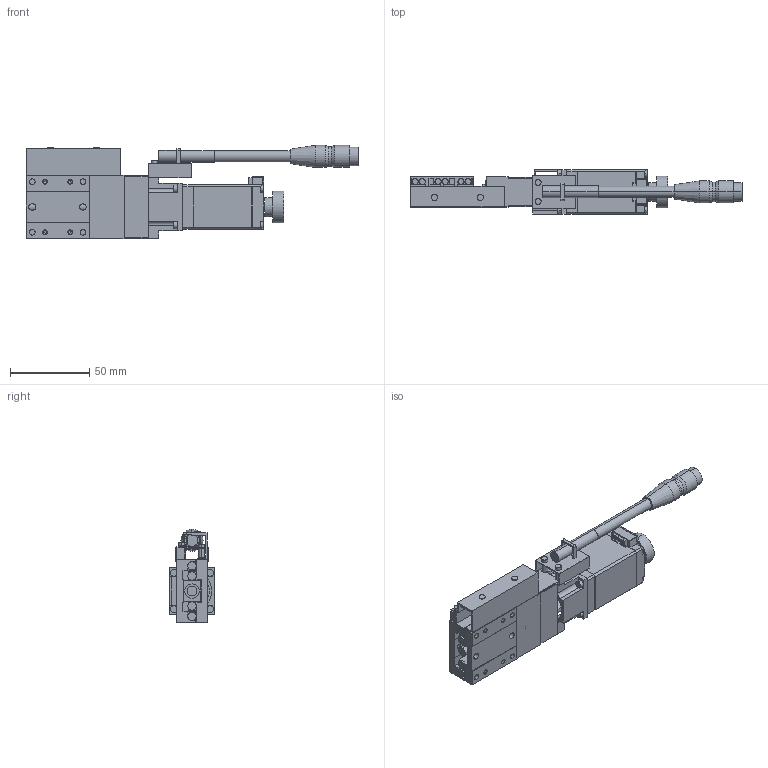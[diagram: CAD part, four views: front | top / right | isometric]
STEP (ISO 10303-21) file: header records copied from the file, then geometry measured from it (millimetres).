
FILE_DESCRIPTION(('STEP AP203'),'1');
FILE_NAME('C:/3D-Trans/3D_PG413T-L□-D4+231107.step','2024-02-26T06:55:47',(' '),(' '),'Spatial InterOp 3D',' ',' ');
FILE_SCHEMA(('CONFIG_CONTROL_DESIGN'));
Length unit declared in the file: millimetre
Products named in the file (6): 1; 2; 3; 4; 5; 6
Bounding box: 210 x 28 x 59 mm (x, y, z)
Volume: 106850.6 mm3; surface area: 49006.2 mm2
Topology: 6 solids, 6 shells, 723 faces, 1808 edges, 1152 vertices
Faces by surface type: plane 426, cylinder 242, cone 54, extrusion 1
Entity records: 21967 total; most frequent: CARTESIAN_POINT 3991, DIRECTION 3794, ORIENTED_EDGE 3576, EDGE_CURVE 1788, AXIS2_PLACEMENT_3D 1291, VECTOR 1212, LINE 1211, VERTEX_POINT 1152
